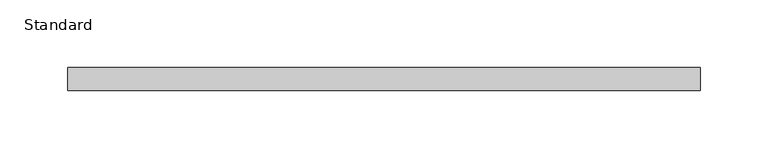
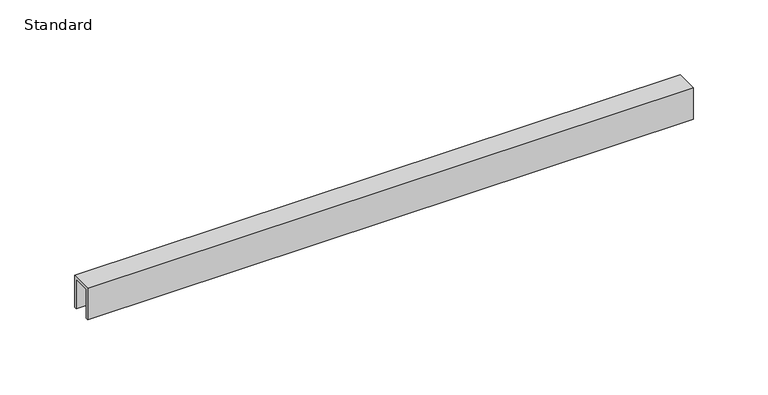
"""IFC4 building model written with IfcOpenShell, lengths in millimetres: furniture geometry, X_Partition-Channel-Duracube-Ceiling : Standard."""

from ifc_helpers import new_model, si_unit, frame, origin, place, context, project, spatial, polyline, outline, extrude, source, transform, mapped, element, save


def standard_4f091022(model_context):
    return source(origin(), model_context, "Body", "SweptSolid", [
        extrude(outline(polyline([(0.0, 0.0), (-2.0, 0.0), (-2.0, 24.0), (-15.0, 24.0), (-15.0, 0.0), (-17.0, 0.0), (-17.0, 26.0), (0.0, 26.0), (0.0, 0.0)])), frame((-188.7996736, 0.0, 0.0), z_axis=(1.0, 0.0, 0.0), x_axis=(0.0, 1.0, 0.0)), (0.0, 0.0, 1.0), 467.0),
    ])


if __name__ == "__main__":
    model = new_model("IFC4")
    model_context = context("Model", 3, world=origin())
    ifc_project = project(units=[si_unit("LENGTHUNIT", "METRE", prefix="MILLI")], contexts=[model_context])
    site = spatial("IfcSite", under=ifc_project)
    building = spatial("IfcBuilding", under=site)
    placement = place(None, origin())
    standard_shape = standard_4f091022(model_context)
    element("IfcFurniture", 1, ObjectType="X_Partition-Channel-Duracube-Ceiling : Standard", at=placement, inside=building, context=model_context, shape_type="MappedRepresentation", body=[
        mapped(standard_shape, transform((0.0, 0.0, 0.0), x_axis=(1.0, 0.0, 0.0), y_axis=(0.0, 1.0, 0.0), z_axis=(0.0, 0.0, 1.0))),
    ])
    save(model, "model.ifc")
